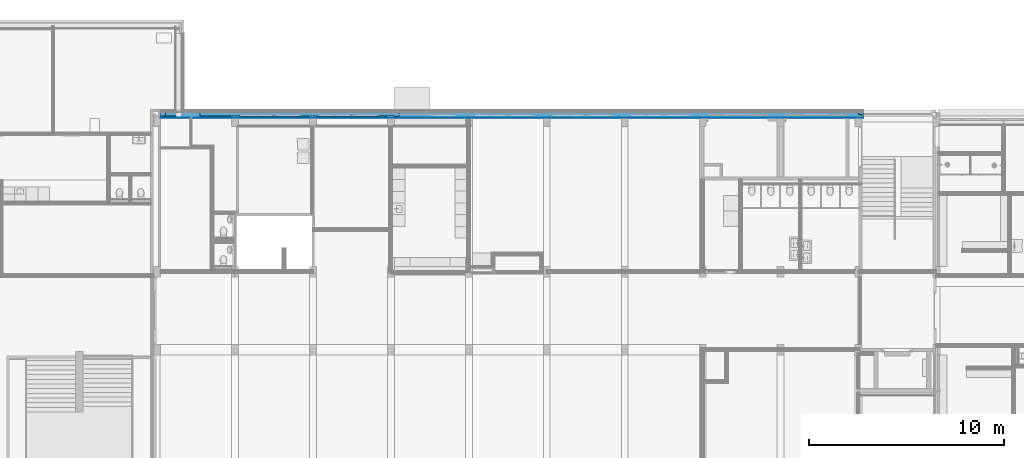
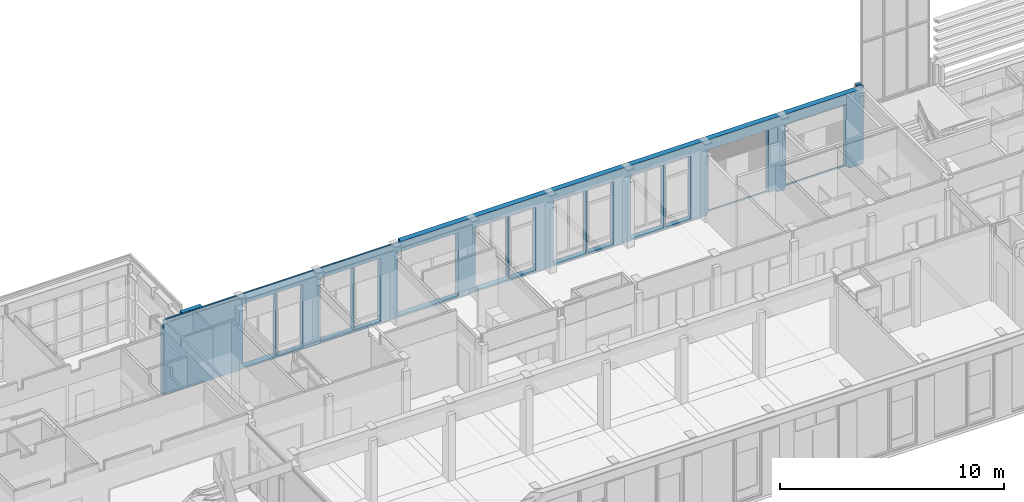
# One storey, part 72 of 109: 2 building element parts, 14 openings, 1 element without a shape of its own.
"""IFC2X3 building model written with IfcOpenShell, lengths in millimetres."""

from ifc_helpers import new_model, entity, si_unit, converted_unit, derived_unit, money_unit, direction, frame, origin_with_axes, place, context, subcontext, project, spatial, faceted_brep, material, type_object, element, aggregate, save


model = new_model("IFC2X3")

# Units and contexts
model_context = context("Model", 3, precision=0.01, world=origin_with_axes(), true_north=direction((0.0, 1.0)))
body_context = subcontext(model_context, "Body", "Model", "MODEL_VIEW")
ifc_project = project(units=[si_unit("LENGTHUNIT", "METRE", prefix="MILLI"), si_unit("AREAUNIT", "SQUARE_METRE"), si_unit("VOLUMEUNIT", "CUBIC_METRE"), converted_unit("PLANEANGLEUNIT", "DEGREE", entity("IfcPlaneAngleMeasure", 0.0174532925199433), si_unit("PLANEANGLEUNIT", "RADIAN"), dimensions=[0, 0, 0, 0, 0, 0, 0]), money_unit("EUR"), converted_unit("TIMEUNIT", "Year", entity("IfcTimeMeasure", 31557600.0), si_unit("TIMEUNIT", "SECOND"), dimensions=[0, 0, 1, 0, 0, 0, 0]), si_unit("MASSUNIT", "GRAM", prefix="KILO"), si_unit("THERMODYNAMICTEMPERATUREUNIT", "DEGREE_CELSIUS"), si_unit("LUMINOUSINTENSITYUNIT", "LUMEN"), si_unit("ENERGYUNIT", "JOULE", prefix="MEGA"), derived_unit("THERMALCONDUCTANCEUNIT", [(si_unit("POWERUNIT", "WATT"), 1), (si_unit("LENGTHUNIT", "METRE"), -1), (si_unit("THERMODYNAMICTEMPERATUREUNIT", "KELVIN"), -1)]), derived_unit("SPECIFICHEATCAPACITYUNIT", [(si_unit("ENERGYUNIT", "JOULE"), 1), (si_unit("MASSUNIT", "GRAM", prefix="KILO"), -1), (si_unit("THERMODYNAMICTEMPERATUREUNIT", "KELVIN"), -1)]), derived_unit("MASSDENSITYUNIT", [(si_unit("MASSUNIT", "GRAM", prefix="KILO"), 1), (si_unit("VOLUMEUNIT", "CUBIC_METRE"), -1)])], contexts=[model_context])

# Site, building, storey
site_placement = place(None, origin_with_axes())
site = spatial("IfcSite", under=ifc_project, at=site_placement, Name="<site naam>", CompositionType="ELEMENT")
building_placement = place(site_placement, origin_with_axes())
building = spatial("IfcBuilding", under=site, at=building_placement, Name="<Naam gebouw>", CompositionType="ELEMENT")
storey_placement = place(building_placement, origin_with_axes())
storey = spatial("IfcBuildingStorey", under=building, at=storey_placement, Name="00 Begane grond", CompositionType="ELEMENT", Elevation=0.0)

# Wall, openings, building element parts
wall_type = type_object("IfcWallType", Name="HSB_285 gevelbeplating 420", PredefinedType="NOTDEFINED")
wall_placement = place(storey_placement, frame((48251.99999966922, 20297.99999999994, 0.0), z_axis=(0.0, 0.0, 1.0), x_axis=(-1.0, 0.0, 0.0)))
wall = element("IfcWall", 1, at=wall_placement, inside=storey, type_object=wall_type, Name="21_Binnenwand_HSB_285")
opening_1_placement = place(wall_placement, frame((17550.9999996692, 0.0, 100.0), z_axis=(0.0, 0.0, 1.0), x_axis=(1.0, 0.0, 0.0)))
element("IfcOpeningElement", 2, at=opening_1_placement, cuts=wall, Name="21_BU-A-01b sp_305", context=body_context, shape_type="Brep", body=[
    faceted_brep([(663.0000000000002, 212.9999999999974, 3450.0), (-663.0000000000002, 212.9999999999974, 3450.0), (-663.0000000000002, -1.000000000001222, 3450.0), (663.0000000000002, -1.000000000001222, 3450.0), (663.0000000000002, 421.000000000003, 3450.0), (-663.0000000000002, 421.000000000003, 3450.0), (-663.0000000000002, 212.9999999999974, 0.0), (-663.0000000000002, -1.000000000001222, 0.0), (663.0000000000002, -1.000000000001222, 0.0), (663.0000000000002, 212.9999999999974, 0.0), (663.0000000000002, 421.000000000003, 0.0), (-663.0000000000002, 421.000000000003, 0.0)], [[[0, 1, 2, 3]], [[1, 0, 4, 5]], [[1, 6, 7, 2]], [[2, 7, 8, 3]], [[9, 0, 3, 8]], [[0, 9, 10, 4]], [[4, 10, 11, 5]], [[6, 1, 5, 11]], [[6, 9, 8, 7]], [[9, 6, 11, 10]]]),
])
opening_2_placement = place(wall_placement, frame((25551.00012310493, 0.0, 100.0), z_axis=(0.0, 0.0, 1.0), x_axis=(1.0, 0.0, 0.0)))
element("IfcOpeningElement", 3, at=opening_2_placement, cuts=wall, Name="21_BU-A-01b sp_305", context=body_context, shape_type="Brep", body=[
    faceted_brep([(663.0000000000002, 212.9999999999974, 3450.0), (-663.0000000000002, 212.9999999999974, 3450.0), (-663.0000000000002, -1.000000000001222, 3450.0), (663.0000000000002, -1.000000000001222, 3450.0), (663.0000000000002, 421.000000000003, 3450.0), (-663.0000000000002, 421.000000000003, 3450.0), (-663.0000000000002, 212.9999999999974, 0.0), (-663.0000000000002, -1.000000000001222, 0.0), (663.0000000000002, -1.000000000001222, 0.0), (663.0000000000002, 212.9999999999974, 0.0), (663.0000000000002, 421.000000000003, 0.0), (-663.0000000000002, 421.000000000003, 0.0)], [[[0, 1, 2, 3]], [[1, 0, 4, 5]], [[1, 6, 7, 2]], [[2, 7, 8, 3]], [[9, 0, 3, 8]], [[0, 9, 10, 4]], [[4, 10, 11, 5]], [[6, 1, 5, 11]], [[6, 9, 8, 7]], [[9, 6, 11, 10]]]),
])
opening_3_placement = place(wall_placement, frame((27140.99995093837, 0.0, 100.0), z_axis=(0.0, 0.0, 1.0), x_axis=(1.0, 0.0, 0.0)))
element("IfcOpeningElement", 4, at=opening_3_placement, cuts=wall, Name="21_BU-A-01a sp_305", context=body_context, shape_type="Brep", body=[
    faceted_brep([(850.9999999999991, 212.9999999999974, 3450.0), (-850.9999999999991, 212.9999999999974, 3450.0), (-850.9999999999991, -1.000000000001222, 3450.0), (850.9999999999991, -1.000000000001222, 3450.0), (850.9999999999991, 421.000000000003, 3450.0), (-850.9999999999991, 421.000000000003, 3450.0), (-850.9999999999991, 212.9999999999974, 0.0), (-850.9999999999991, -1.000000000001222, 0.0), (850.9999999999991, -1.000000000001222, 0.0), (850.9999999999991, 212.9999999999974, 0.0), (850.9999999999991, 421.000000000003, 0.0), (-850.9999999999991, 421.000000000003, 0.0)], [[[0, 1, 2, 3]], [[1, 0, 4, 5]], [[1, 6, 7, 2]], [[2, 7, 8, 3]], [[9, 0, 3, 8]], [[0, 9, 10, 4]], [[4, 10, 11, 5]], [[6, 1, 5, 11]], [[6, 9, 8, 7]], [[9, 6, 11, 10]]]),
])
opening_4_placement = place(wall_placement, frame((19140.98053610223, 0.0, 100.0), z_axis=(0.0, 0.0, 1.0), x_axis=(1.0, 0.0, 0.0)))
element("IfcOpeningElement", 5, at=opening_4_placement, cuts=wall, Name="21_BU-A-01a sp_305", context=body_context, shape_type="Brep", body=[
    faceted_brep([(850.9999999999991, 212.9999999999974, 3450.0), (-850.9999999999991, 212.9999999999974, 3450.0), (-850.9999999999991, -1.000000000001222, 3450.0), (850.9999999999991, -1.000000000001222, 3450.0), (850.9999999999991, 421.000000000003, 3450.0), (-850.9999999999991, 421.000000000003, 3450.0), (-850.9999999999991, 212.9999999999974, 0.0), (-850.9999999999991, -1.000000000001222, 0.0), (850.9999999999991, -1.000000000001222, 0.0), (850.9999999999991, 212.9999999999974, 0.0), (850.9999999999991, 421.000000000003, 0.0), (-850.9999999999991, 421.000000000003, 0.0)], [[[0, 1, 2, 3]], [[1, 0, 4, 5]], [[1, 6, 7, 2]], [[2, 7, 8, 3]], [[9, 0, 3, 8]], [[0, 9, 10, 4]], [[4, 10, 11, 5]], [[6, 1, 5, 11]], [[6, 9, 8, 7]], [[9, 6, 11, 10]]]),
])
opening_5_placement = place(wall_placement, frame((9551.000010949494, 0.0, 100.0), z_axis=(0.0, 0.0, 1.0), x_axis=(1.0, 0.0, 0.0)))
element("IfcOpeningElement", 6, at=opening_5_placement, cuts=wall, Name="21_BU-A-01b sp_305", context=body_context, shape_type="Brep", body=[
    faceted_brep([(662.9999999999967, 213.000000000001, 3450.0), (-662.9999999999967, 213.000000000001, 3450.0), (-662.9999999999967, -1.000000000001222, 3450.0), (662.9999999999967, -1.000000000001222, 3450.0), (662.9999999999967, 421.000000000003, 3450.0), (-662.9999999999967, 421.000000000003, 3450.0), (-662.9999999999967, 213.000000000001, 0.0), (-662.9999999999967, -1.000000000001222, 0.0), (662.9999999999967, -1.000000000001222, 0.0), (662.9999999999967, 213.000000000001, 0.0), (662.9999999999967, 421.000000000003, 0.0), (-662.9999999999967, 421.000000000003, 0.0)], [[[0, 1, 2, 3]], [[1, 0, 4, 5]], [[1, 6, 7, 2]], [[2, 7, 8, 3]], [[9, 0, 3, 8]], [[0, 9, 10, 4]], [[4, 10, 11, 5]], [[6, 1, 5, 11]], [[6, 9, 8, 7]], [[9, 6, 11, 10]]]),
])
opening_6_placement = place(wall_placement, frame((13550.99999966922, 0.0, 100.0), z_axis=(0.0, 0.0, 1.0), x_axis=(1.0, 0.0, 0.0)))
element("IfcOpeningElement", 7, at=opening_6_placement, cuts=wall, Name="21_BU-A-01b sp_305", context=body_context, shape_type="Brep", body=[
    faceted_brep([(662.9999999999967, 213.000000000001, 3450.0), (-662.9999999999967, 213.000000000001, 3450.0), (-662.9999999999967, -1.000000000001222, 3450.0), (662.9999999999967, -1.000000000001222, 3450.0), (662.9999999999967, 421.000000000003, 3450.0), (-662.9999999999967, 421.000000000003, 3450.0), (-662.9999999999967, 213.000000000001, 0.0), (-662.9999999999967, -1.000000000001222, 0.0), (662.9999999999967, -1.000000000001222, 0.0), (662.9999999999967, 213.000000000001, 0.0), (662.9999999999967, 421.000000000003, 0.0), (-662.9999999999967, 421.000000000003, 0.0)], [[[0, 1, 2, 3]], [[1, 0, 4, 5]], [[1, 6, 7, 2]], [[2, 7, 8, 3]], [[9, 0, 3, 8]], [[0, 9, 10, 4]], [[4, 10, 11, 5]], [[6, 1, 5, 11]], [[6, 9, 8, 7]], [[9, 6, 11, 10]]]),
])
opening_7_placement = place(wall_placement, frame((11140.9999996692, 0.0, 100.0), z_axis=(0.0, 0.0, 1.0), x_axis=(1.0, 0.0, 0.0)))
element("IfcOpeningElement", 8, at=opening_7_placement, cuts=wall, Name="21_BU-A-01a sp_305", context=body_context, shape_type="Brep", body=[
    faceted_brep([(850.9999999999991, 213.000000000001, 3450.0), (-850.9999999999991, 213.000000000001, 3450.0), (-850.9999999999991, -1.000000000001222, 3450.0), (850.9999999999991, -1.000000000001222, 3450.0), (850.9999999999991, 421.000000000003, 3450.0), (-850.9999999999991, 421.000000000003, 3450.0), (-850.9999999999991, 213.000000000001, 0.0), (-850.9999999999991, -1.000000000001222, 0.0), (850.9999999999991, -1.000000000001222, 0.0), (850.9999999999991, 213.000000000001, 0.0), (850.9999999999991, 421.000000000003, 0.0), (-850.9999999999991, 421.000000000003, 0.0)], [[[0, 1, 2, 3]], [[1, 0, 4, 5]], [[1, 6, 7, 2]], [[2, 7, 8, 3]], [[9, 0, 3, 8]], [[0, 9, 10, 4]], [[4, 10, 11, 5]], [[6, 1, 5, 11]], [[6, 9, 8, 7]], [[9, 6, 11, 10]]]),
])
opening_8_placement = place(wall_placement, frame((21551.00000902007, 0.0, 100.0), z_axis=(0.0, 0.0, 1.0), x_axis=(1.0, 0.0, 0.0)))
element("IfcOpeningElement", 9, at=opening_8_placement, cuts=wall, Name="21_BU-A-01b sp_305", context=body_context, shape_type="Brep", body=[
    faceted_brep([(663.0000000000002, 212.9999999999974, 3450.0), (-663.0000000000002, 212.9999999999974, 3450.0), (-663.0000000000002, -1.000000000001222, 3450.0), (663.0000000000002, -1.000000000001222, 3450.0), (663.0000000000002, 421.000000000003, 3450.0), (-663.0000000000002, 421.000000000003, 3450.0), (-663.0000000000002, 212.9999999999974, 0.0), (-663.0000000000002, -1.000000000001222, 0.0), (663.0000000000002, -1.000000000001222, 0.0), (663.0000000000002, 212.9999999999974, 0.0), (663.0000000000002, 421.000000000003, 0.0), (-663.0000000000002, 421.000000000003, 0.0)], [[[0, 1, 2, 3]], [[1, 0, 4, 5]], [[1, 6, 7, 2]], [[2, 7, 8, 3]], [[9, 0, 3, 8]], [[0, 9, 10, 4]], [[4, 10, 11, 5]], [[6, 1, 5, 11]], [[6, 9, 8, 7]], [[9, 6, 11, 10]]]),
])
opening_9_placement = place(wall_placement, frame((29550.99999966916, 0.0, 100.0), z_axis=(0.0, 0.0, 1.0), x_axis=(1.0, 0.0, 0.0)))
element("IfcOpeningElement", 10, at=opening_9_placement, cuts=wall, Name="21_BU-A-01b sp_305", context=body_context, shape_type="Brep", body=[
    faceted_brep([(663.0000000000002, 212.9999999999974, 3450.0), (-663.0000000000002, 212.9999999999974, 3450.0), (-663.0000000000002, -1.000000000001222, 3450.0), (663.0000000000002, -1.000000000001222, 3450.0), (663.0000000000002, 421.000000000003, 3450.0), (-663.0000000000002, 421.000000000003, 3450.0), (-663.0000000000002, 212.9999999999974, 0.0), (-663.0000000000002, -1.000000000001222, 0.0), (663.0000000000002, -1.000000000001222, 0.0), (663.0000000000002, 212.9999999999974, 0.0), (663.0000000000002, 421.000000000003, 0.0), (-663.0000000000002, 421.000000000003, 0.0)], [[[0, 1, 2, 3]], [[1, 0, 4, 5]], [[1, 6, 7, 2]], [[2, 7, 8, 3]], [[9, 0, 3, 8]], [[0, 9, 10, 4]], [[4, 10, 11, 5]], [[6, 1, 5, 11]], [[6, 9, 8, 7]], [[9, 6, 11, 10]]]),
])
opening_10_placement = place(wall_placement, frame((31140.99993875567, 0.0, 100.0), z_axis=(0.0, 0.0, 1.0), x_axis=(1.0, 0.0, 0.0)))
element("IfcOpeningElement", 11, at=opening_10_placement, cuts=wall, Name="21_BU-A-01a sp_305", context=body_context, shape_type="Brep", body=[
    faceted_brep([(850.9999999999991, 212.9999999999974, 3450.0), (-850.9999999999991, 212.9999999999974, 3450.0), (-850.9999999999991, -1.000000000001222, 3450.0), (850.9999999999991, -1.000000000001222, 3450.0), (850.9999999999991, 421.000000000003, 3450.0), (-850.9999999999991, 421.000000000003, 3450.0), (-850.9999999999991, 212.9999999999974, 0.0), (-850.9999999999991, -1.000000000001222, 0.0), (850.9999999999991, -1.000000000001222, 0.0), (850.9999999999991, 212.9999999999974, 0.0), (850.9999999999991, 421.000000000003, 0.0), (-850.9999999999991, 421.000000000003, 0.0)], [[[0, 1, 2, 3]], [[1, 0, 4, 5]], [[1, 6, 7, 2]], [[2, 7, 8, 3]], [[9, 0, 3, 8]], [[0, 9, 10, 4]], [[4, 10, 11, 5]], [[6, 1, 5, 11]], [[6, 9, 8, 7]], [[9, 6, 11, 10]]]),
])
opening_11_placement = place(wall_placement, frame((23073.49996408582, 0.0, 103.0000398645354), z_axis=(0.0, 0.0, 1.0), x_axis=(1.0, 0.0, 0.0)))
element("IfcOpeningElement", 12, at=opening_11_placement, cuts=wall, Name="21_BU-C-02_305", context=body_context, shape_type="Brep", body=[
    faceted_brep([(918.4999990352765, 204.9999999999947, 3451.998648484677), (-918.4999990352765, 204.9999999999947, 3451.998648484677), (-918.4999990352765, -1.000000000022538, 3451.998648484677), (918.4999990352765, -1.000000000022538, 3451.998648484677), (918.4999990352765, 421.000000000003, 3451.998648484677), (-918.4999990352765, 421.000000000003, 3451.998648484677), (-918.4999990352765, 204.9999999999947, 0.0), (-918.4999990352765, -1.000000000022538, 0.0), (918.4999990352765, -1.000000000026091, 0.0), (918.4999990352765, 204.9999999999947, 0.0), (918.4999990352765, 421.000000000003, 0.0), (-918.4999990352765, 421.000000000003, 0.0)], [[[0, 1, 2, 3]], [[1, 0, 4, 5]], [[1, 6, 7, 2]], [[2, 7, 8, 3]], [[9, 0, 3, 8]], [[0, 9, 10, 4]], [[4, 10, 11, 5]], [[6, 1, 5, 11]], [[6, 9, 8, 7]], [[9, 6, 11, 10]]]),
])
opening_12_placement = place(wall_placement, frame((2441.000957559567, 0.0, 78.00000000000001), z_axis=(0.0, 0.0, 1.0), x_axis=(1.0, 0.0, 0.0)))
element("IfcOpeningElement", 13, at=opening_12_placement, cuts=wall, Name="21_BU-F-01_305", context=body_context, shape_type="Brep", body=[
    faceted_brep([(1552.0, 204.9999999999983, 3472.000000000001), (-1552.0, 204.9999999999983, 3472.000000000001), (-1552.0, -1.000000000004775, 3472.000000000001), (1552.0, -1.000000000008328, 3472.000000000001), (1552.0, 421.000000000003, 3472.000000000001), (-1552.0, 421.000000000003, 3472.000000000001), (-1552.0, 204.9999999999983, 0.0), (-1552.0, -1.000000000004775, 0.0), (1552.0, -1.000000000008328, 0.0), (1552.0, 204.9999999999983, 0.0), (1552.0, 421.000000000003, 0.0), (-1552.0, 421.000000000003, 0.0)], [[[0, 1, 2, 3]], [[1, 0, 4, 5]], [[1, 6, 7, 2]], [[2, 7, 8, 3]], [[9, 0, 3, 8]], [[0, 9, 10, 4]], [[4, 10, 11, 5]], [[6, 1, 5, 11]], [[6, 9, 8, 7]], [[9, 6, 11, 10]]]),
])
opening_13_placement = place(wall_placement, frame((6439.999999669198, 0.0, 77.99999999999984), z_axis=(0.0, 0.0, 1.0), x_axis=(1.0, 0.0, 0.0)))
element("IfcOpeningElement", 14, at=opening_13_placement, cuts=wall, Name="21_BU-F-01_305", context=body_context, shape_type="Brep", body=[
    faceted_brep([(1552.0, 204.9999999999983, 3472.000000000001), (-1552.0, 204.9999999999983, 3472.000000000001), (-1552.0, -1.000000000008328, 3472.000000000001), (1552.0, -1.00000000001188, 3472.000000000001), (1552.0, 421.000000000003, 3472.000000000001), (-1552.0, 421.000000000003, 3472.000000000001), (-1552.0, 204.9999999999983, 0.0), (-1552.0, -1.000000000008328, 0.0), (1552.0, -1.00000000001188, 0.0), (1552.0, 204.9999999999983, 0.0), (1552.0, 421.000000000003, 0.0), (-1552.0, 421.000000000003, 0.0)], [[[0, 1, 2, 3]], [[1, 0, 4, 5]], [[1, 6, 7, 2]], [[2, 7, 8, 3]], [[9, 0, 3, 8]], [[0, 9, 10, 4]], [[4, 10, 11, 5]], [[6, 1, 5, 11]], [[6, 9, 8, 7]], [[9, 6, 11, 10]]]),
])
opening_14_placement = place(wall_placement, frame((15140.99984577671, 0.0, 100.0), z_axis=(0.0, 0.0, 1.0), x_axis=(1.0, 0.0, 0.0)))
element("IfcOpeningElement", 15, at=opening_14_placement, cuts=wall, Name="21_BU-A-01a sp_305", context=body_context, shape_type="Brep", body=[
    faceted_brep([(850.9999999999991, 212.9999999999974, 3450.0), (-850.9999999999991, 212.9999999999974, 3450.0), (-850.9999999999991, -1.000000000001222, 3450.0), (850.9999999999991, -1.000000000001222, 3450.0), (850.9999999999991, 421.000000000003, 3450.0), (-850.9999999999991, 421.000000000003, 3450.0), (-850.9999999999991, 212.9999999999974, 0.0), (-850.9999999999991, -1.000000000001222, 0.0), (850.9999999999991, -1.000000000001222, 0.0), (850.9999999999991, 212.9999999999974, 0.0), (850.9999999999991, 421.000000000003, 0.0), (-850.9999999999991, 421.000000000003, 0.0)], [[[0, 1, 2, 3]], [[1, 0, 4, 5]], [[1, 6, 7, 2]], [[2, 7, 8, 3]], [[9, 0, 3, 8]], [[0, 9, 10, 4]], [[4, 10, 11, 5]], [[6, 1, 5, 11]], [[6, 9, 8, 7]], [[9, 6, 11, 10]]]),
])
ifc_material_1 = material(Name="folie_dampdicht")
building_element_part_1_placement = place(wall_placement, origin_with_axes())
building_element_part_1 = element("IfcBuildingElementPart", 16, at=building_element_part_1_placement, material=ifc_material_1, Name="folie_dampdicht", context=body_context, shape_type="Brep", body=[
    faceted_brep([(32116.47051499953, 392.000000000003, 4100.000000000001), (77.42214540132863, 392.0000000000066, 4100.000000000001), (77.42214540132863, 391.9999999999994, 4250.0), (0.0, 391.9999999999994, 4250.0), (0.0, 391.9999999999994, 3.000000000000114), (76.9999996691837, 392.000000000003, 3.000000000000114), (76.9999996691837, 391.9999999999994, 0.0), (739.1156105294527, 391.9999999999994, 0.0), (739.1156105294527, 392.000000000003, 129.9999999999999), (4076.999999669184, 392.000000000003, 129.9999999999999), (4076.999999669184, 391.9999999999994, 0.0), (4426.999999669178, 391.9999999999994, 0.0), (4426.999999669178, 392.000000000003, 129.9999999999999), (8077.000047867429, 392.000000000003, 129.9999999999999), (8077.000047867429, 391.9999999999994, 0.0), (8326.999999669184, 391.9999999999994, 0.0), (8326.999999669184, 391.9999999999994, 3.000000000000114), (20176.99984466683, 391.9999999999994, 3.000000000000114), (20176.99984466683, 391.9999999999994, 0.0), (20326.99993133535, 391.9999999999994, 0.0), (20326.99993133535, 391.9999999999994, 3.000000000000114), (24177.00005669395, 391.9999999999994, 3.000000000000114), (24177.00005669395, 391.9999999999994, 0.0), (24426.99990839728, 391.9999999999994, 0.0), (24426.99990839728, 391.9999999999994, 3.000000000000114), (28076.99984942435, 391.9999999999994, 3.000000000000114), (28076.99984942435, 391.9999999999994, 0.0), (28427.00011923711, 391.9999999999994, 0.0), (28427.00011923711, 391.9999999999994, 3.000000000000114), (32077.00001533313, 391.9999999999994, 3.000000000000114), (32077.00001533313, 391.9999999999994, 0.0), (32427.00006550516, 391.9999999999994, 0.0), (32427.00006550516, 391.9999999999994, 3.000000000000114), (34464.49991009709, 391.9999999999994, 3.000000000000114), (34464.49991009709, 391.9999999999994, 0.0), (36076.99999966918, 391.9999999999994, 0.0), (36076.99999966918, 391.9999999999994, 4100.000000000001), (35766.47051499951, 392.000000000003, 4100.000000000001), (35766.47051499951, 392.000000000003, 4090.499903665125), (32116.47051499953, 392.000000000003, 4090.499903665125), (4427.000040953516, 392.000000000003, 3555.000039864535), (8076.999999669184, 391.9999999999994, 3555.000039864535), (8076.999999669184, 391.9999999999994, 2729.999960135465), (4427.000040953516, 392.000000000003, 2729.999960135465), (889.000957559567, 392.000000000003, 3555.000039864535), (4077.000034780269, 392.000000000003, 3555.000039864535), (4077.000034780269, 392.000000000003, 2729.999960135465), (889.000957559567, 392.000000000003, 2729.999960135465), (35766.47051499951, 392.000000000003, 3938.499955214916), (35766.47051499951, 392.000000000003, 3928.999844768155), (32116.47051499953, 392.000000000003, 3928.999844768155), (32116.47051499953, 392.000000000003, 3938.499955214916), (32116.47051499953, 392.5000000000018, 4100.000000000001), (77.42214540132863, 392.5000000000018, 4100.000000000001), (77.42214540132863, 392.5000000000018, 4250.0), (0.0, 392.5000000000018, 4250.0), (0.0, 392.4999999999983, 3.000000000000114), (76.9999996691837, 392.5000000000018, 3.000000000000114), (76.9999996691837, 392.4999999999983, 0.0), (739.1156105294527, 392.4999999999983, 0.0), (739.1156105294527, 392.5000000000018, 129.9999999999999), (4076.999999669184, 392.5000000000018, 129.9999999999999), (4076.999999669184, 392.4999999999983, 0.0), (4426.999999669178, 392.4999999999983, 0.0), (4426.999999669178, 392.5000000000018, 129.9999999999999), (8077.000047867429, 392.5000000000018, 129.9999999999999), (8077.000047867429, 392.4999999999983, 0.0), (8326.999999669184, 392.4999999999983, 0.0), (8326.999999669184, 392.5000000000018, 3.000000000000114), (20176.99984466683, 392.4999999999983, 3.000000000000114), (20176.99984466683, 392.5000000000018, 0.0), (20326.99993134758, 392.4999999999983, 0.0), (20326.99993134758, 392.4999999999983, 3.000000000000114), (24177.00005669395, 392.4999999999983, 3.000000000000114), (24177.00005669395, 392.4999999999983, 0.0), (24426.99990839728, 392.4999999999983, 0.0), (24426.99990839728, 392.4999999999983, 3.000000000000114), (28076.99984942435, 392.4999999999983, 3.000000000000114), (28076.99984942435, 392.4999999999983, 0.0), (28427.00011923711, 392.4999999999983, 0.0), (28427.00011923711, 392.4999999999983, 3.000000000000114), (32077.00001533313, 392.4999999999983, 3.000000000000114), (32077.00001533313, 392.4999999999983, 0.0), (32427.00006550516, 392.4999999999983, 0.0), (32427.00006550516, 392.4999999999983, 3.000000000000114), (34464.49991009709, 392.4999999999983, 3.000000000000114), (34464.49991009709, 392.4999999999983, 0.0), (36076.99999966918, 392.4999999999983, 0.0), (36076.99999966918, 392.4999999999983, 4100.000000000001), (35766.47051499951, 392.5000000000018, 4100.000000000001), (35766.47051499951, 392.5000000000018, 4090.499903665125), (32116.47051499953, 392.5000000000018, 4090.499903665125), (4427.000040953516, 392.5000000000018, 3555.000039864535), (8076.999999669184, 392.5000000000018, 3555.000039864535), (8076.999999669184, 392.5000000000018, 2729.999960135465), (4427.000040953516, 392.5000000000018, 2729.999960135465), (889.000957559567, 392.5000000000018, 3555.000039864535), (4077.000034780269, 392.5000000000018, 3555.000039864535), (4077.000034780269, 392.5000000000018, 2729.999960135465), (889.000957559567, 392.5000000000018, 2729.999960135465), (35766.47051499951, 392.5000000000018, 3928.999844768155), (35766.47051499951, 392.5000000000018, 3938.499955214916), (32116.47051499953, 392.5000000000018, 3928.999844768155), (32116.47051499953, 392.5000000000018, 3938.499955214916)], [[[0, 1, 2, 3, 4, 5, 6, 7, 8, 9, 10, 11, 12, 13, 14, 15, 16, 17, 18, 19, 20, 21, 22, 23, 24, 25, 26, 27, 28, 29, 30, 31, 32, 33, 34, 35, 36, 37, 38, 39], [40, 41, 42, 43], [44, 45, 46, 47], [48, 49, 50, 51]], [[1, 0, 52, 53]], [[54, 2, 1, 53]], [[2, 54, 55, 3]], [[3, 55, 56, 4]], [[56, 57, 5, 4]], [[57, 58, 6, 5]], [[6, 58, 59, 7]], [[59, 60, 8, 7]], [[60, 61, 9, 8]], [[61, 62, 10, 9]], [[10, 62, 63, 11]], [[63, 64, 12, 11]], [[64, 65, 13, 12]], [[65, 66, 14, 13]], [[67, 15, 14, 66]], [[67, 68, 16, 15]], [[68, 69, 17, 16]], [[69, 70, 18, 17]], [[18, 70, 71, 19]], [[71, 72, 20, 19]], [[72, 73, 21, 20]], [[73, 74, 22, 21]], [[75, 23, 22, 74]], [[75, 76, 24, 23]], [[76, 77, 25, 24]], [[77, 78, 26, 25]], [[79, 27, 26, 78]], [[79, 80, 28, 27]], [[80, 81, 29, 28]], [[81, 82, 30, 29]], [[83, 31, 30, 82]], [[83, 84, 32, 31]], [[84, 85, 33, 32]], [[85, 86, 34, 33]], [[87, 35, 34, 86]], [[88, 36, 35, 87]], [[89, 37, 36, 88]], [[37, 89, 90, 38]], [[91, 39, 38, 90]], [[52, 0, 39, 91]], [[92, 93, 41, 40]], [[93, 94, 42, 41]], [[94, 95, 43, 42]], [[95, 92, 40, 43]], [[96, 97, 45, 44]], [[97, 98, 46, 45]], [[98, 99, 47, 46]], [[99, 96, 44, 47]], [[100, 49, 48, 101]], [[102, 50, 49, 100]], [[103, 51, 50, 102]], [[101, 48, 51, 103]], [[53, 52, 91, 90, 89, 88, 87, 86, 85, 84, 83, 82, 81, 80, 79, 78, 77, 76, 75, 74, 73, 72, 71, 70, 69, 68, 67, 66, 65, 64, 63, 62, 61, 60, 59, 58, 57, 56, 55, 54], [92, 95, 94, 93], [96, 99, 98, 97], [102, 100, 101, 103]]]),
])
ifc_material_2 = material(Name="isolatie_houtvezel")
building_element_part_2_placement = place(wall_placement, origin_with_axes())
building_element_part_2 = element("IfcBuildingElementPart", 17, at=building_element_part_2_placement, material=ifc_material_2, Name="isolatie_houtvezel", context=body_context, shape_type="Brep", body=[
    faceted_brep([(251.9999996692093, 133.0000058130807, 4250.0), (251.9999996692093, 232.9999999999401, 4250.0), (77.42214540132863, 232.9999999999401, 4250.0), (77.42214540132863, 391.9999999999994, 4250.0), (0.0, 391.9999999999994, 4250.0), (0.0, 106.9999999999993, 4250.0), (251.9999996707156, 106.9999999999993, 4250.0), (251.9999996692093, 133.0000058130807, 4220.0), (251.9999996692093, 107.0000000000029, 4220.0), (251.9999996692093, 107.0000000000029, 4100.000000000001), (251.9999996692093, 232.9999999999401, 4100.000000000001), (77.42214540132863, 232.9999999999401, 4100.000000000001), (77.42214540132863, 391.9999999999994, 4100.000000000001), (35766.47051499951, 391.9999999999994, 4100.000000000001), (36076.99999966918, 391.9999999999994, 4100.000000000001), (36076.99999966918, 391.9999999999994, 0.0), (34464.49991009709, 391.9999999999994, 0.0), (34464.49991009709, 391.9999999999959, 3.000000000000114), (32427.00006550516, 391.9999999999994, 3.000000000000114), (32427.00006550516, 391.9999999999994, 0.0), (32077.00001533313, 391.9999999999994, 0.0), (32077.00001533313, 391.9999999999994, 3.000000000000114), (28427.00011923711, 391.9999999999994, 3.000000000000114), (28427.00011923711, 391.9999999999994, 0.0), (28076.99984942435, 391.9999999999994, 0.0), (28076.99984942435, 391.9999999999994, 3.000000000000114), (24426.99990839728, 391.9999999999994, 3.000000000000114), (24426.99990839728, 391.9999999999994, 0.0), (24177.00005669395, 391.9999999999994, 0.0), (24177.00005669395, 391.9999999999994, 3.000000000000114), (20326.99993133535, 391.9999999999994, 3.000000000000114), (20326.99993133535, 391.9999999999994, 0.0), (20176.99984466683, 391.9999999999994, 0.0), (20176.99984466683, 391.9999999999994, 3.000000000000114), (8326.999999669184, 391.9999999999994, 3.000000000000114), (8326.999999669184, 391.9999999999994, 0.0), (8077.000047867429, 391.9999999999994, 0.0), (8077.000047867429, 391.9999999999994, 129.9999999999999), (4426.999999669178, 391.9999999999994, 129.9999999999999), (4426.999999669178, 391.9999999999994, 0.0), (4076.999999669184, 391.9999999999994, 0.0), (4076.999999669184, 391.9999999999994, 129.9999999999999), (739.1156105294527, 391.9999999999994, 129.9999999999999), (739.1156105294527, 391.9999999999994, 0.0), (76.9999996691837, 391.9999999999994, 0.0), (76.9999996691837, 391.9999999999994, 3.000000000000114), (0.0, 391.9999999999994, 3.000000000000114), (32116.47051499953, 391.9999999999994, 4100.000000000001), (32116.47051499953, 391.9999999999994, 4090.499903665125), (35766.47051499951, 391.9999999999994, 4090.499903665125), (32116.47051499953, 391.9999999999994, 3938.499955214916), (32116.47051499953, 391.9999999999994, 3928.999844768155), (35766.47051499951, 391.9999999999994, 3928.999844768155), (35766.47051499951, 391.9999999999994, 3938.499955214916), (0.0, 106.9999999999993, 0.0), (0.0, 298.0000479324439, 3.000000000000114), (0.0, 298.0000479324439, 0.0), (35002.39014477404, 106.9999999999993, 0.0), (35002.39014477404, 106.9999999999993, 3546.975460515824), (35287.39014477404, 106.9999999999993, 3546.975460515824), (35287.39014477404, 106.9999999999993, 0.0), (36076.99999966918, 106.9999999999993, 0.0), (36076.99999966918, 106.9999999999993, 3619.999999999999), (35826.99998672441, 106.9999999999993, 3619.999999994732), (35826.99998672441, 106.9999999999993, 3920.0), (35076.99999966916, 106.9999999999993, 3920.0), (35076.99999966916, 106.9999999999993, 4100.000000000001), (34041.47051499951, 106.9999999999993, 4100.000000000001), (34041.47051499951, 106.9999999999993, 3620.0), (23826.47051499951, 106.9999999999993, 3620.0), (23826.47051499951, 106.9999999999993, 4100.000000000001), (23826.47051499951, 303.3987289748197, 4100.000000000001), (34041.47051499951, 303.3987289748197, 4100.000000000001), (35076.99999966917, 297.9999999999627, 4100.000000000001), (36076.99999966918, 297.9999999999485, 4100.000000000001), (35766.47051499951, 313.3987109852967, 4100.000000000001), (32116.47051499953, 313.3987109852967, 4100.000000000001), (36076.99999966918, 297.9999999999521, 3619.999999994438), (4426.999999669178, 163.0000147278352, 0.0), (8077.000047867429, 163.0000147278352, 0.0), (8326.999999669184, 373.0001107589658, 0.0), (20176.99984466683, 373.0001107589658, 0.0), (20326.99993087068, 373.0000405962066, 0.0), (24177.00005669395, 373.0000405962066, 0.0), (24426.99990839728, 373.000070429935, 0.0), (28076.99984942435, 373.000070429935, 0.0), (28427.00011923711, 373.0245036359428, 0.0), (32427.00006550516, 373.0482821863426, 0.0), (34464.49991009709, 373.0604458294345, 0.0), (35287.39014477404, 344.9304674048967, 0.0), (35002.39014477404, 344.9304674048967, 0.0), (76.9999996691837, 298.0000479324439, 0.0), (739.1156105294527, 163.0000147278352, 0.0), (4076.999999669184, 163.0000147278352, 0.0), (34464.49991009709, 373.0604458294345, 3.000000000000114), (32427.00006550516, 373.0482821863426, 3.000000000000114), (32077.00001533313, 373.0482821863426, 0.0), (32077.00001533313, 373.0482821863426, 3.000000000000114), (32427.00006550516, 373.0482821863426, 3.000000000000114), (28427.00011923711, 373.0245036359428, 3.000000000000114), (28076.99984942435, 373.000070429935, 3.000000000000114), (24426.99990839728, 373.000070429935, 3.000000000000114), (24177.00005669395, 373.0000405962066, 3.000000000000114), (20326.99993087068, 373.0000405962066, 3.000000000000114), (20176.99984466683, 373.0001107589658, 3.000000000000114), (8326.999999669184, 373.0001107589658, 3.000000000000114), (8077.000047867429, 163.0000147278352, 129.9999999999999), (4426.999999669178, 163.0000147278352, 129.9999999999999), (4076.999999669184, 163.0000147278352, 129.9999999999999), (739.1156105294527, 163.0000147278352, 129.9999999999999), (76.9999996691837, 298.0000479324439, 3.000000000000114), (32116.47051499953, 313.3987129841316, 4090.499903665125), (35766.47051499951, 313.3987129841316, 4090.499903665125), (32116.47051499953, 313.3987129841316, 3938.499955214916), (32116.47051499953, 313.3987109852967, 3928.999844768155), (35766.47051499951, 313.3987109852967, 3928.999844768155), (35766.47051499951, 313.3987129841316, 3938.499955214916), (35002.39014477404, 344.9304674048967, 3546.975460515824), (35287.39014477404, 344.9304674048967, 3546.975460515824), (35826.99998672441, 297.9999999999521, 3619.999999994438), (35826.99998672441, 297.9999999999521, 3920.0), (35076.99999966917, 297.9999999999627, 3920.0), (34041.47051499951, 303.3987289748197, 3620.0), (23826.47051499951, 303.3987289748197, 3620.0)], [[[0, 1, 2, 3, 4, 5, 6]], [[7, 8, 9, 10, 1, 0]], [[2, 1, 10, 11]], [[3, 2, 11, 12]], [[13, 14, 15, 16, 17, 18, 19, 20, 21, 22, 23, 24, 25, 26, 27, 28, 29, 30, 31, 32, 33, 34, 35, 36, 37, 38, 39, 40, 41, 42, 43, 44, 45, 46, 4, 3, 12, 47, 48, 49], [50, 51, 52, 53]], [[54, 5, 4, 46, 55, 56]], [[9, 8, 6, 5, 54, 57, 58, 59, 60, 61, 62, 63, 64, 65, 66, 67, 68, 69, 70]], [[7, 0, 6, 8]], [[47, 12, 11, 10, 9, 70, 71, 72, 67, 66, 73, 74, 14, 13, 75, 76]], [[14, 74, 77, 62, 61, 15]], [[40, 39, 78, 79, 36, 35, 80, 81, 32, 31, 82, 83, 28, 27, 84, 85, 24, 23, 86, 87, 88, 16, 15, 61, 60, 89, 90, 57, 54, 56, 91, 44, 43, 92, 93]], [[17, 16, 88, 94]], [[95, 18, 17, 94]], [[95, 87, 19, 18]], [[96, 20, 19, 87]], [[20, 96, 97, 21]], [[97, 98, 99, 22, 21]], [[86, 23, 22, 99]], [[85, 100, 25, 24]], [[25, 100, 101, 26]], [[27, 26, 101, 84]], [[29, 28, 83, 102]], [[103, 30, 29, 102]], [[103, 82, 31, 30]], [[104, 33, 32, 81]], [[104, 105, 34, 33]], [[34, 105, 80, 35]], [[79, 106, 37, 36]], [[37, 106, 107, 38]], [[39, 38, 107, 78]], [[40, 93, 108, 41]], [[42, 41, 108, 109]], [[92, 43, 42, 109]], [[110, 45, 44, 91]], [[45, 110, 55, 46]], [[47, 76, 111, 48]], [[111, 112, 49, 48]], [[75, 13, 49, 112]], [[113, 114, 51, 50]], [[114, 115, 52, 51]], [[115, 116, 53, 52]], [[116, 113, 50, 53]], [[110, 91, 56, 55]], [[117, 58, 57, 90]], [[118, 59, 58, 117]], [[89, 60, 59, 118]], [[77, 119, 63, 62]], [[63, 119, 120, 64]], [[120, 121, 65, 64]], [[73, 66, 65, 121]], [[67, 72, 122, 68]], [[122, 123, 69, 68]], [[71, 70, 69, 123]], [[72, 71, 123, 122]], [[74, 73, 121, 120, 119, 77]], [[76, 75, 112, 111]], [[78, 107, 106, 79]], [[105, 104, 81, 80]], [[102, 83, 82, 103]], [[84, 101, 100, 85]], [[87, 86, 99, 98]], [[94, 88, 87, 95]], [[117, 90, 89, 118]], [[93, 92, 109, 108]], [[96, 87, 98, 97]], [[115, 114, 113, 116]]]),
])
aggregate(wall, [building_element_part_1, building_element_part_2])

save(model, "model.ifc")
